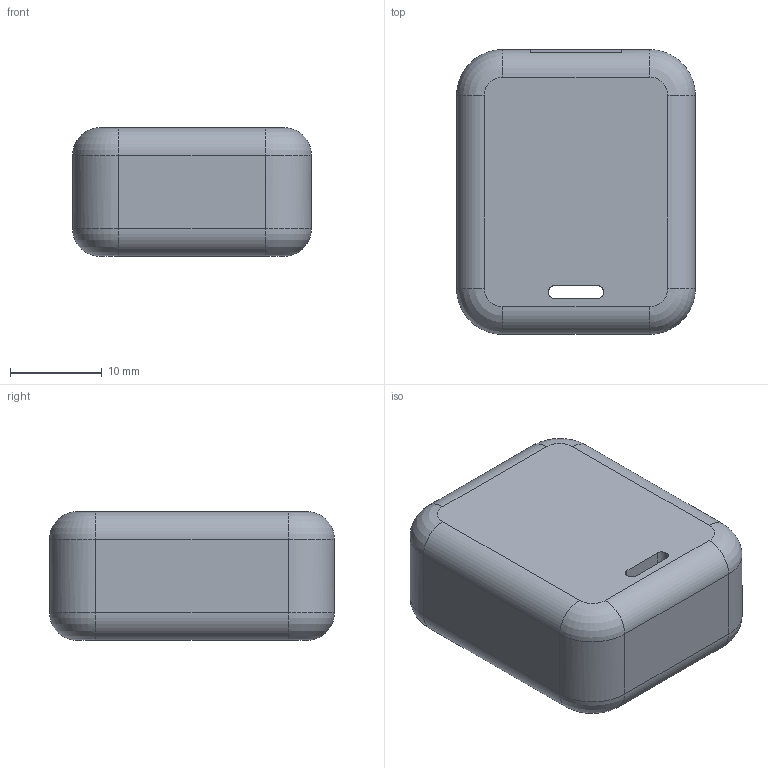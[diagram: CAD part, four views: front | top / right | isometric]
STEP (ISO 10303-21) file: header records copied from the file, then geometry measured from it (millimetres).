
FILE_DESCRIPTION(('SolidCraft model'),'2;1');
FILE_NAME('rounded_whole_26x31x14.step','',(''),(''),'SolidCraft','SolidCraft','');
FILE_SCHEMA(('AP242_MANAGED_MODEL_BASED_3D_ENGINEERING_MIM_LF { 1 0 10303 442 1 1 4 }'));
Length unit declared in the file: millimetre
Products named in the file (1): rounded_whole_26x31x14
Bounding box: 26 x 31 x 14 mm (x, y, z)
Volume: 10420.9 mm3; surface area: 2981.1 mm2
Topology: 1 solids, 1 shells, 41 faces, 101 edges, 62 vertices
Faces by surface type: cylinder 18, plane 15, revolution 8
Entity records: 1103 total; most frequent: CARTESIAN_POINT 383, ORIENTED_EDGE 202, EDGE_CURVE 101, VERTEX_POINT 62, LINE 55, EDGE_LOOP 43, FACE_BOUND 43, ADVANCED_FACE 41
